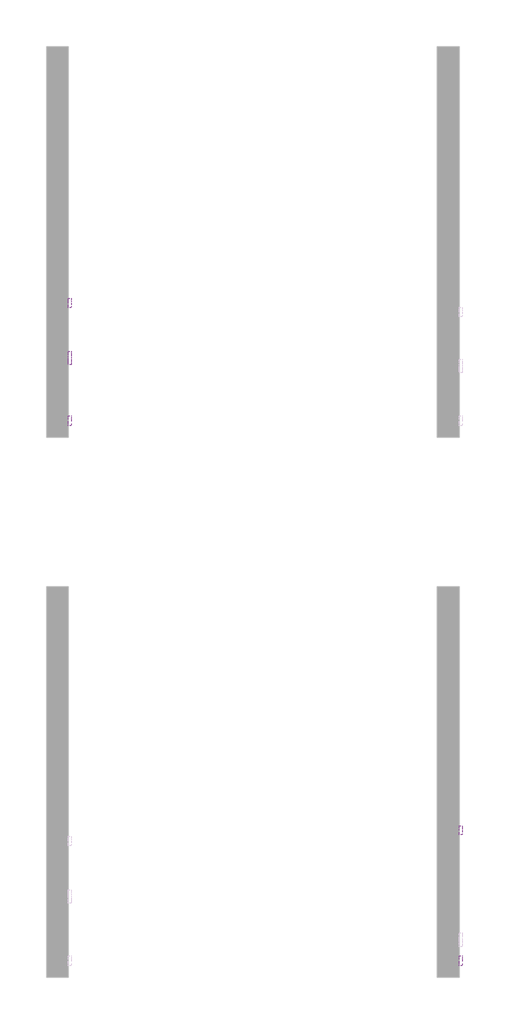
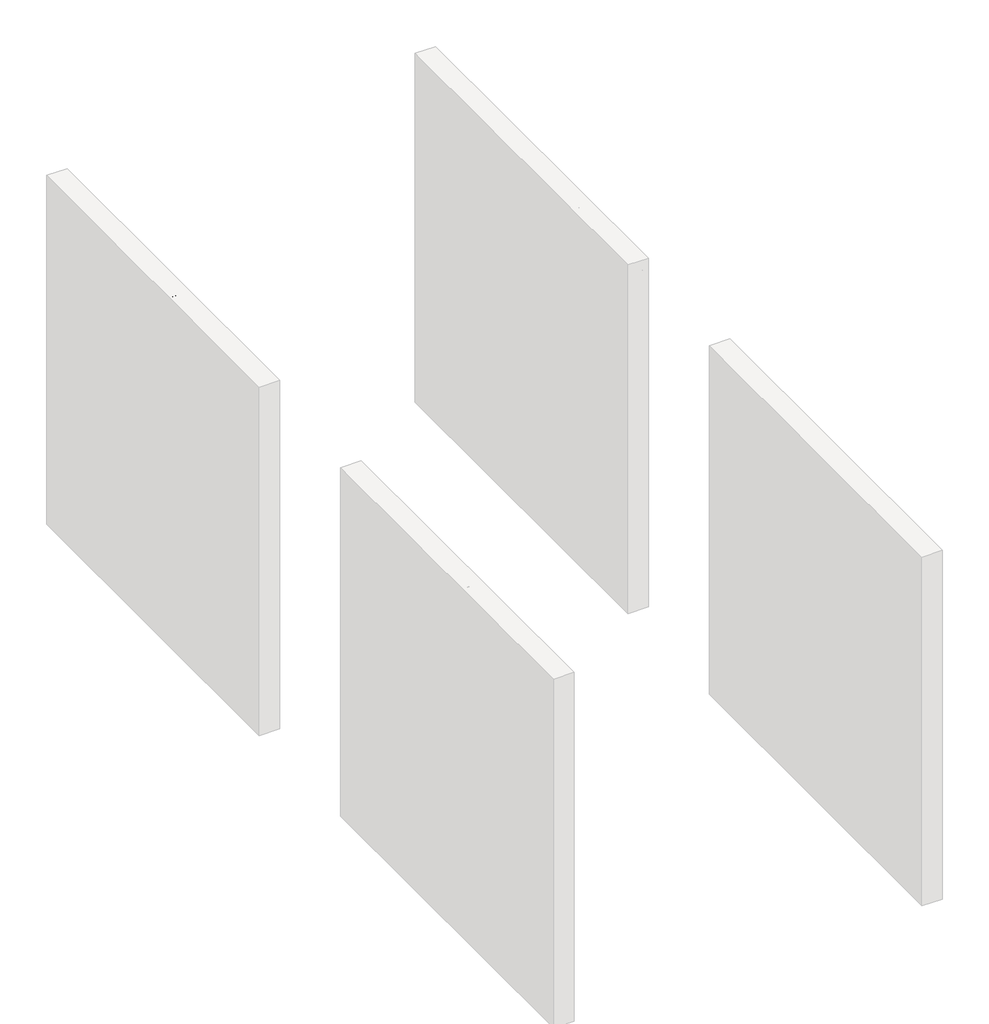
# One storey, part 3 of 17: 5 proxies.
"""IFC4 building model written with IfcOpenShell, lengths in millimetres."""

from ifc_helpers import new_model, si_unit, frame, origin, place, context, project, spatial, polyline, outline, extrude, element, save

model = new_model("IFC4")

# Units and contexts
model_context = context("Model", 3, world=origin())
ifc_project = project(units=[si_unit("LENGTHUNIT", "METRE", prefix="MILLI")], contexts=[model_context])

# Site, building, storey
site = spatial("IfcSite", under=ifc_project)
building = spatial("IfcBuilding", under=site)
storey = spatial("IfcBuildingStorey", under=building, Name="PORTOBELLO - SHOWROOM", Elevation=0.0)

# Proxies
placement = place(None, origin())
element("IfcBuildingElementProxy", 1, Name="10mm Arial", ObjectType="10mm Arial", at=placement, inside=storey, context=model_context, shape_type="SweptSolid", body=[
    extrude(outline(polyline([(-13002.2794626, -3900.8003989), (-13002.2794626, -3913.3574377), (-13022.2794626, -3913.3574377), (-13022.2794626, -3900.8003989), (-13002.2794626, -3900.8003989)])), frame((0.0, 0.0, 2518.4745677), z_axis=(0.0, 0.0, 1.0), x_axis=(1.0, 0.0, 0.0)), (0.0, 0.0, 1.0), 100.4563101),
    extrude(outline(polyline([(-3877.2559512, 2518.4745677), (-3877.2559512, 2592.2471704), (-3864.6989124, 2592.2471704), (-3864.6989124, 2581.9464746), (-3855.0971924, 2590.8492188), (-3841.9883306, 2593.8168003), (-3830.1302676, 2591.4255673), (-3822.0368637, 2585.1470479), (-3818.2722047, 2575.9132098), (-3817.6100171, 2563.773104), (-3817.6100171, 2518.4745677), (-3830.1670558, 2518.4745677), (-3830.1670558, 2562.0808468), (-3831.6140583, 2573.1908831), (-3836.7276181, 2579.0647323), (-3845.3483195, 2581.2597615), (-3858.972216, 2576.3301428), (-3863.2672383, 2569.1871007), (-3864.6989124, 2557.6172119), (-3864.6989124, 2518.4745677), (-3877.2559512, 2518.4745677)])), frame((-13022.2794626, 0.0, 0.0), z_axis=(1.0, 0.0, 0.0), x_axis=(0.0, 1.0, 0.0)), (0.0, 0.0, 1.0), 20.0),
    extrude(outline(polyline([(-3754.8248232, 2518.4745677), (-3754.8248232, 2530.3203679), (-3763.1328249, 2520.2587953), (-3774.6168746, 2516.9049378), (-3790.1660202, 2521.7609802), (-3801.1534291, 2535.3113003), (-3805.0529783, 2555.2872926), (-3801.4599975, 2575.2755477), (-3790.6933177, 2589.0343343), (-3774.6659255, 2593.8168003), (-3763.0899054, 2590.3954977), (-3754.8248232, 2581.5050162), (-3754.8248232, 2618.9308778), (-3742.2677844, 2618.9308778), (-3742.2677844, 2518.4745677), (-3754.8248232, 2518.4745677)]), holes=[polyline([(-3792.4959395, 2555.3363436), (-3791.0795938, 2543.977987), (-3786.8305568, 2535.8999115), (-3780.6562706, 2531.0714603), (-3773.4641776, 2529.4619766), (-3766.2751503, 2530.9978839), (-3760.257214, 2535.6056059), (-3756.1829209, 2543.3709817), (-3754.8248232, 2554.3798504), (-3756.2074464, 2566.415723), (-3760.3553159, 2574.7605129), (-3766.5265363, 2579.6349494), (-3773.9792124, 2581.2597615), (-3781.2448818, 2579.6993287), (-3787.1984388, 2575.0180303), (-3791.1715643, 2566.976743), (-3792.4959395, 2555.3363436)])]), frame((-13022.2794626, 0.0, 0.0), z_axis=(1.0, 0.0, 0.0), x_axis=(0.0, 1.0, 0.0)), (0.0, 0.0, 1.0), 20.0),
    extrude(outline(polyline([(-13002.2794626, -3710.8751875), (-13002.2794626, -3723.4322263), (-13022.2794626, -3723.4322263), (-13022.2794626, -3710.8751875), (-13002.2794626, -3710.8751875)])), frame((0.0, 0.0, 2606.373839), z_axis=(0.0, 0.0, 1.0), x_axis=(1.0, 0.0, 0.0)), (0.0, 0.0, 1.0), 12.5570388),
    extrude(outline(polyline([(-13002.2794626, -3710.8751875), (-13002.2794626, -3723.4322263), (-13022.2794626, -3723.4322263), (-13022.2794626, -3710.8751875), (-13002.2794626, -3710.8751875)])), frame((0.0, 0.0, 2518.4745677), z_axis=(0.0, 0.0, 1.0), x_axis=(1.0, 0.0, 0.0)), (0.0, 0.0, 1.0), 73.7726028),
    extrude(outline(polyline([(-3695.1788891, 2512.1960483), (-3682.6218503, 2510.6264184), (-3678.5506229, 2504.0045425), (-3666.3614661, 2501.2086394), (-3653.5101217, 2504.3724245), (-3647.3787552, 2513.2506433), (-3646.5203638, 2527.8923467), (-3655.3617945, 2520.8290124), (-3666.1407369, 2518.4745677), (-3679.0871175, 2521.2152885), (-3688.7409541, 2529.4374511), (-3694.7466277, 2541.4917178), (-3696.7485189, 2555.728751), (-3693.1555381, 2575.1897086), (-3682.7567404, 2588.9607579), (-3666.7538736, 2593.8168003), (-3655.5518668, 2591.069948), (-3646.5203638, 2582.8293914), (-3646.5203638, 2592.2471704), (-3633.9633251, 2592.2471704), (-3633.9633251, 2528.5545343), (-3637.3968904, 2504.1639581), (-3648.2739347, 2492.8209299), (-3666.6067208, 2488.6516006), (-3678.2900398, 2490.1200629), (-3687.4901554, 2494.5254498), (-3693.3915957, 2501.880024), (-3695.1788891, 2512.1960483)]), holes=[polyline([(-3684.1914801, 2556.5871424), (-3682.8517765, 2545.0693702), (-3678.8326657, 2537.1507103), (-3672.790204, 2532.5613824), (-3665.3804475, 2531.0316064), (-3658.0258732, 2532.5521853), (-3651.9527546, 2537.1139221), (-3647.8784615, 2544.9314145), (-3646.5203638, 2556.2192604), (-3647.9183154, 2567.1055017), (-3652.1121702, 2574.9444539), (-3658.2741936, 2579.6809346), (-3665.5766512, 2581.2597615), (-3672.7472844, 2579.7054601), (-3678.7590893, 2575.0425558), (-3682.8333824, 2567.3200996), (-3684.1914801, 2556.5871424)])]), frame((-13022.2794626, 0.0, 0.0), z_axis=(1.0, 0.0, 0.0), x_axis=(0.0, 1.0, 0.0)), (0.0, 0.0, 1.0), 20.0),
    extrude(outline(polyline([(-3618.2670266, 2555.360869), (-3615.5508312, 2573.1479635), (-3607.402245, 2585.64982), (-3597.3345411, 2591.7750552), (-3585.2802744, 2593.8168003), (-3572.0886392, 2591.3305311), (-3561.5518857, 2583.8717237), (-3554.6449012, 2572.0289891), (-3552.3425731, 2556.3909386), (-3556.4138005, 2534.0482388), (-3568.2718635, 2521.4053609), (-3585.2802744, 2516.9049378), (-3598.6313251, 2519.3820099), (-3609.1558159, 2526.8132262), (-3615.9892239, 2538.9042811), (-3618.2670266, 2555.360869)]), holes=[polyline([(-3605.7099878, 2555.3853945), (-3604.256854, 2544.0209065), (-3599.8974523, 2535.924437), (-3593.3368901, 2531.0775917), (-3585.2802744, 2529.4619766), (-3577.2604469, 2531.0867887), (-3570.7121474, 2535.9612252), (-3566.3527457, 2544.1649937), (-3564.8996118, 2555.777802), (-3566.3619428, 2566.8111961), (-3570.7489356, 2574.7973011), (-3577.3064321, 2579.6441464), (-3585.2802744, 2581.2597615), (-3593.3368901, 2579.6502778), (-3599.8974523, 2574.8218266), (-3604.256854, 2566.7437511), (-3605.7099878, 2555.3853945)])]), frame((-13022.2794626, 0.0, 0.0), z_axis=(1.0, 0.0, 0.0), x_axis=(0.0, 1.0, 0.0)), (0.0, 0.0, 1.0), 20.0),
    extrude(outline(polyline([(-3450.3166331, 2557.7153138), (-3450.3166331, 2570.2723526), (-3409.5062571, 2570.2723526), (-3409.5062571, 2532.7238636), (-3429.6539277, 2520.8780634), (-3450.9542952, 2516.9049378), (-3465.0411099, 2518.4837647), (-3477.7728926, 2523.2202454), (-3488.3495, 2530.948833), (-3495.9707887, 2541.5039806), (-3500.5785107, 2554.1652526), (-3502.114418, 2568.2122134), (-3500.584642, 2582.3603418), (-3495.9953141, 2595.5213202), (-3488.5365067, 2606.5608457), (-3478.398292, 2614.3446156), (-3466.0497197, 2618.9615346), (-3451.9598393, 2620.5005077), (-3432.3149408, 2616.9320523), (-3418.5438914, 2606.9992384), (-3410.9532596, 2590.383235), (-3422.5292797, 2587.121348), (-3428.2559761, 2598.7341563), (-3438.0416372, 2605.4296086), (-3452.1560431, 2607.9434689), (-3468.2324862, 2605.2334049), (-3479.1708442, 2598.1210196), (-3485.6333046, 2588.4457231), (-3489.5573792, 2568.7272482), (-3484.836227, 2546.8382695), (-3471.1019658, 2533.7416705), (-3451.9598393, 2529.4619766), (-3434.7797501, 2532.6870754), (-3422.0632958, 2539.5664687), (-3422.0632958, 2557.7153138), (-3450.3166331, 2557.7153138)])), frame((-13022.2794626, 0.0, 0.0), z_axis=(1.0, 0.0, 0.0), x_axis=(0.0, 1.0, 0.0)), (0.0, 0.0, 1.0), 20.0),
    extrude(outline(polyline([(-3390.6706989, 2518.4745677), (-3390.6706989, 2592.2471704), (-3379.68329, 2592.2471704), (-3379.68329, 2581.3333379), (-3371.8841917, 2591.3887791), (-3364.0360425, 2593.8168003), (-3351.4299528, 2589.9417766), (-3355.6238075, 2578.6845875), (-3364.4529754, 2581.2597615), (-3371.5530979, 2578.7826894), (-3376.0780464, 2571.9155588), (-3378.1136602, 2557.24933), (-3378.1136602, 2518.4745677), (-3390.6706989, 2518.4745677)])), frame((-13022.2794626, 0.0, 0.0), z_axis=(1.0, 0.0, 0.0), x_axis=(0.0, 1.0, 0.0)), (0.0, 0.0, 1.0), 20.0),
    extrude(outline(polyline([(-3296.4929082, 2527.8923467), (-3308.6698022, 2519.3820099), (-3322.1220205, 2516.9049378), (-3332.6158544, 2518.3948599), (-3340.3567047, 2522.8646261), (-3345.1299736, 2529.6520489), (-3346.7210632, 2538.0949407), (-3344.3175675, 2548.0277546), (-3338.0022599, 2555.2382417), (-3329.2098803, 2559.3585201), (-3318.3450987, 2561.246981), (-3296.5664846, 2565.563463), (-3296.4929082, 2568.3593662), (-3299.9509989, 2577.6299925), (-3313.8324129, 2581.2597615), (-3326.5366044, 2578.8440031), (-3332.5943946, 2570.2723526), (-3345.1514334, 2571.8419824), (-3339.7190426, 2584.1047156), (-3328.7806846, 2591.2906772), (-3312.2137321, 2593.8168003), (-3296.9956802, 2591.5849828), (-3288.3995043, 2585.9809138), (-3284.549006, 2577.4583142), (-3283.9358694, 2566.4709053), (-3283.9358694, 2550.8481832), (-3283.2982073, 2529.0327809), (-3280.7966097, 2518.4745677), (-3293.3536485, 2518.4745677), (-3296.4929082, 2527.8923467)]), holes=[polyline([(-3296.4929082, 2553.0064243), (-3316.7509434, 2549.1559261), (-3327.5544113, 2547.1203124), (-3332.4472418, 2543.8093744), (-3334.1640245, 2538.9778575), (-3330.4238908, 2532.1843033), (-3319.4487447, 2529.4619766), (-3306.7445531, 2532.4663462), (-3298.5530473, 2539.738147), (-3296.5664846, 2549.4502317), (-3296.4929082, 2553.0064243)])]), frame((-13022.2794626, 0.0, 0.0), z_axis=(1.0, 0.0, 0.0), x_axis=(0.0, 1.0, 0.0)), (0.0, 0.0, 1.0), 20.0),
    extrude(outline(polyline([(-3263.5306814, 2518.4745677), (-3263.5306814, 2579.6901317), (-3274.5180903, 2579.6901317), (-3274.5180903, 2592.2471704), (-3263.5306814, 2592.2471704), (-3263.5306814, 2599.6783867), (-3262.2063062, 2610.1507609), (-3255.780634, 2617.6310281), (-3243.1254934, 2620.5005077), (-3231.6721006, 2619.1270815), (-3233.5115106, 2607.3548577), (-3240.7465232, 2607.9434689), (-3248.6559861, 2605.8588043), (-3250.9736426, 2598.0842314), (-3250.9736426, 2592.2471704), (-3236.846974, 2592.2471704), (-3236.846974, 2579.6901317), (-3250.9736426, 2579.6901317), (-3250.9736426, 2518.4745677), (-3263.5306814, 2518.4745677)])), frame((-13022.2794626, 0.0, 0.0), z_axis=(1.0, 0.0, 0.0), x_axis=(0.0, 1.0, 0.0)), (0.0, 0.0, 1.0), 20.0),
    extrude(outline(polyline([(-3222.7203054, 2518.4745677), (-3222.7203054, 2579.6901317), (-3233.7077143, 2579.6901317), (-3233.7077143, 2592.2471704), (-3222.7203054, 2592.2471704), (-3222.7203054, 2599.6783867), (-3221.3959302, 2610.1507609), (-3214.970258, 2617.6310281), (-3202.3151174, 2620.5005077), (-3190.8617246, 2619.1270815), (-3192.7011346, 2607.3548577), (-3199.9361472, 2607.9434689), (-3207.8456101, 2605.8588043), (-3210.1632666, 2598.0842314), (-3210.1632666, 2592.2471704), (-3196.036598, 2592.2471704), (-3196.036598, 2579.6901317), (-3210.1632666, 2579.6901317), (-3210.1632666, 2518.4745677), (-3222.7203054, 2518.4745677)])), frame((-13022.2794626, 0.0, 0.0), z_axis=(1.0, 0.0, 0.0), x_axis=(0.0, 1.0, 0.0)), (0.0, 0.0, 1.0), 20.0),
    extrude(outline(polyline([(-13002.2794626, -3172.4921503), (-13002.2794626, -3185.0491891), (-13022.2794626, -3185.0491891), (-13022.2794626, -3172.4921503), (-13002.2794626, -3172.4921503)])), frame((0.0, 0.0, 2606.373839), z_axis=(0.0, 0.0, 1.0), x_axis=(1.0, 0.0, 0.0)), (0.0, 0.0, 1.0), 12.5570388),
    extrude(outline(polyline([(-13002.2794626, -3172.4921503), (-13002.2794626, -3185.0491891), (-13022.2794626, -3185.0491891), (-13022.2794626, -3172.4921503), (-13002.2794626, -3172.4921503)])), frame((0.0, 0.0, 2518.4745677), z_axis=(0.0, 0.0, 1.0), x_axis=(1.0, 0.0, 0.0)), (0.0, 0.0, 1.0), 73.7726028),
])
element("IfcBuildingElementProxy", 2, Name="10mm Arial", ObjectType="10mm Arial", at=placement, inside=storey, context=model_context, shape_type="SweptSolid", body=[
    extrude(outline(polyline([(-7608.8255811, 2393.4745677), (-7608.8255811, 2417.0190154), (-7654.3448466, 2417.0190154), (-7654.3448466, 2429.5760541), (-7605.6863214, 2492.361248), (-7596.2685423, 2492.361248), (-7596.2685423, 2429.5760541), (-7583.7115035, 2429.5760541), (-7583.7115035, 2417.0190154), (-7596.2685423, 2417.0190154), (-7596.2685423, 2393.4745677), (-7608.8255811, 2393.4745677)]), holes=[polyline([(-7608.8255811, 2429.5760541), (-7608.8255811, 2468.3753419), (-7638.8938028, 2429.5760541), (-7608.8255811, 2429.5760541)])]), frame((-10322.2794626, 0.0, 0.0), z_axis=(1.0, 0.0, 0.0), x_axis=(0.0, 1.0, 0.0)), (0.0, 0.0, 1.0), 20.0),
    extrude(outline(polyline([(-7572.7240946, 2420.158275), (-7560.1670558, 2421.7279049), (-7553.8394855, 2408.7907214), (-7540.718361, 2404.4619766), (-7531.7175149, 2405.9672271), (-7524.9730116, 2410.4829786), (-7520.7607628, 2417.4880649), (-7519.3566798, 2426.4613199), (-7524.6173924, 2441.3728034), (-7531.2239399, 2445.4746877), (-7540.5221573, 2446.8419824), (-7551.5463544, 2444.6592159), (-7558.597426, 2438.9938332), (-7571.1544648, 2440.563463), (-7560.1670558, 2492.361248), (-7511.5085306, 2492.361248), (-7511.5085306, 2479.8042092), (-7550.0135128, 2479.8042092), (-7555.4091154, 2452.1394832), (-7546.438926, 2457.5841367), (-7537.0395411, 2459.3990212), (-7525.3041054, 2457.1488097), (-7515.5552325, 2450.3981751), (-7508.9885389, 2440.1097419), (-7506.7996411, 2427.2461348), (-7508.7678097, 2414.6890961), (-7514.6723158, 2403.9469418), (-7525.9785557, 2394.9154388), (-7540.7674119, 2391.9049378), (-7553.1006558, 2393.839384), (-7562.9261708, 2399.6427224), (-7569.661477, 2408.6405029), (-7572.7240946, 2420.158275)])), frame((-10322.2794626, 0.0, 0.0), z_axis=(1.0, 0.0, 0.0), x_axis=(0.0, 1.0, 0.0)), (0.0, 0.0, 1.0), 20.0),
    extrude(outline(polyline([(-7500.5211217, 2393.4745677), (-7473.6902615, 2430.5815982), (-7498.9514918, 2467.2471704), (-7483.8928555, 2467.2471704), (-7471.7036987, 2449.5643092), (-7465.9892651, 2441.2501761), (-7461.0351209, 2448.0682557), (-7447.1537069, 2467.2471704), (-7432.0460196, 2467.2471704), (-7458.5825742, 2430.5570728), (-7433.0270383, 2393.4745677), (-7448.1102001, 2393.4745677), (-7463.512193, 2415.792742), (-7466.3080961, 2419.8884949), (-7485.4134344, 2393.4745677), (-7500.5211217, 2393.4745677)])), frame((-10322.2794626, 0.0, 0.0), z_axis=(1.0, 0.0, 0.0), x_axis=(0.0, 1.0, 0.0)), (0.0, 0.0, 1.0), 20.0),
    extrude(outline(polyline([(-7378.0899937, 2393.4745677), (-7390.6470325, 2393.4745677), (-7390.6470325, 2471.7598562), (-7402.5418836, 2463.2863076), (-7415.76111, 2456.9464746), (-7415.76111, 2468.8168003), (-7397.3547475, 2480.5644987), (-7386.1833976, 2493.9308778), (-7378.0899937, 2493.9308778), (-7378.0899937, 2393.4745677)])), frame((-10322.2794626, 0.0, 0.0), z_axis=(1.0, 0.0, 0.0), x_axis=(0.0, 1.0, 0.0)), (0.0, 0.0, 1.0), 20.0),
    extrude(outline(polyline([(-7283.9122029, 2406.0316064), (-7283.9122029, 2393.4745677), (-7349.8366565, 2393.4745677), (-7348.4877558, 2402.1320573), (-7340.848073, 2415.4616482), (-7325.1149864, 2430.0175125), (-7303.4467369, 2450.9377353), (-7298.0388715, 2465.1625058), (-7303.1524313, 2476.6772122), (-7316.5065477, 2481.373839), (-7330.4247498, 2476.7875768), (-7335.7099878, 2464.1079107), (-7348.2670266, 2465.6775406), (-7345.2228031, 2477.8237778), (-7338.6407811, 2486.6958652), (-7328.864317, 2492.1221247), (-7316.2367676, 2493.9308778), (-7303.5172476, 2491.9197896), (-7293.7591777, 2485.8865249), (-7287.551169, 2476.873416), (-7285.4818328, 2465.9227952), (-7287.7136502, 2454.0156813), (-7295.1326038, 2441.7038972), (-7313.1220333, 2424.4992826), (-7327.567533, 2412.4204904), (-7333.2329157, 2406.0316064), (-7283.9122029, 2406.0316064)])), frame((-10322.2794626, 0.0, 0.0), z_axis=(1.0, 0.0, 0.0), x_axis=(0.0, 1.0, 0.0)), (0.0, 0.0, 1.0), 20.0),
    extrude(outline(polyline([(-7271.3551641, 2442.8933823), (-7267.6640815, 2471.7966444), (-7256.701198, 2488.4616988), (-7238.3929374, 2493.9308778), (-7223.7267085, 2490.6935163), (-7213.5976909, 2481.3615763), (-7207.711579, 2466.4991437), (-7205.4307106, 2442.8933823), (-7209.0850051, 2414.1127476), (-7220.0111004, 2397.410905), (-7228.24246, 2393.2814296), (-7238.3929374, 2391.9049378), (-7251.4404855, 2394.2961708), (-7261.3487739, 2401.4698697), (-7268.8535666, 2418.4598865), (-7271.3551641, 2442.8933823)]), holes=[polyline([(-7258.7981254, 2442.9179078), (-7257.3265974, 2423.1657104), (-7252.9120135, 2411.7337774), (-7246.3391885, 2406.2799268), (-7238.3929374, 2404.4619766), (-7230.4466863, 2406.2860581), (-7223.8738613, 2411.7583028), (-7219.4592774, 2423.1963672), (-7217.9877494, 2442.9179078), (-7219.4102264, 2462.2255812), (-7223.6776576, 2473.746419), (-7230.2382198, 2479.466984), (-7238.5400902, 2481.373839), (-7246.4005021, 2479.6938446), (-7252.7158097, 2474.6538613), (-7257.2775465, 2462.4156536), (-7258.7981254, 2442.9179078)])]), frame((-10322.2794626, 0.0, 0.0), z_axis=(1.0, 0.0, 0.0), x_axis=(0.0, 1.0, 0.0)), (0.0, 0.0, 1.0), 20.0),
])
element("IfcBuildingElementProxy", 3, Name="10mm Arial", ObjectType="10mm Arial", at=placement, inside=storey, context=model_context, shape_type="SweptSolid", body=[
    extrude(outline(polyline([(-3878.8255811, 2393.4745677), (-3878.8255811, 2417.0190154), (-3924.3448466, 2417.0190154), (-3924.3448466, 2429.5760541), (-3875.6863214, 2492.361248), (-3866.2685423, 2492.361248), (-3866.2685423, 2429.5760541), (-3853.7115035, 2429.5760541), (-3853.7115035, 2417.0190154), (-3866.2685423, 2417.0190154), (-3866.2685423, 2393.4745677), (-3878.8255811, 2393.4745677)]), holes=[polyline([(-3878.8255811, 2429.5760541), (-3878.8255811, 2468.3753419), (-3908.8938028, 2429.5760541), (-3878.8255811, 2429.5760541)])]), frame((-13022.2794626, 0.0, 0.0), z_axis=(1.0, 0.0, 0.0), x_axis=(0.0, 1.0, 0.0)), (0.0, 0.0, 1.0), 20.0),
    extrude(outline(polyline([(-3842.7240946, 2420.158275), (-3830.1670558, 2421.7279049), (-3823.8394855, 2408.7907214), (-3810.718361, 2404.4619766), (-3801.7175149, 2405.9672271), (-3794.9730116, 2410.4829786), (-3790.7607628, 2417.4880649), (-3789.3566798, 2426.4613199), (-3794.6173924, 2441.3728034), (-3801.2239399, 2445.4746877), (-3810.5221573, 2446.8419824), (-3821.5463544, 2444.6592159), (-3828.597426, 2438.9938332), (-3841.1544648, 2440.563463), (-3830.1670558, 2492.361248), (-3781.5085306, 2492.361248), (-3781.5085306, 2479.8042092), (-3820.0135128, 2479.8042092), (-3825.4091154, 2452.1394832), (-3816.438926, 2457.5841367), (-3807.0395411, 2459.3990212), (-3795.3041054, 2457.1488097), (-3785.5552325, 2450.3981751), (-3778.9885389, 2440.1097419), (-3776.7996411, 2427.2461348), (-3778.7678097, 2414.6890961), (-3784.6723158, 2403.9469418), (-3795.9785557, 2394.9154388), (-3810.7674119, 2391.9049378), (-3823.1006558, 2393.839384), (-3832.9261708, 2399.6427224), (-3839.661477, 2408.6405029), (-3842.7240946, 2420.158275)])), frame((-13022.2794626, 0.0, 0.0), z_axis=(1.0, 0.0, 0.0), x_axis=(0.0, 1.0, 0.0)), (0.0, 0.0, 1.0), 20.0),
    extrude(outline(polyline([(-3770.5211217, 2393.4745677), (-3743.6902615, 2430.5815982), (-3768.9514918, 2467.2471704), (-3753.8928555, 2467.2471704), (-3741.7036987, 2449.5643092), (-3735.9892651, 2441.2501761), (-3731.0351209, 2448.0682557), (-3717.1537069, 2467.2471704), (-3702.0460196, 2467.2471704), (-3728.5825742, 2430.5570728), (-3703.0270383, 2393.4745677), (-3718.1102001, 2393.4745677), (-3733.512193, 2415.792742), (-3736.3080961, 2419.8884949), (-3755.4134344, 2393.4745677), (-3770.5211217, 2393.4745677)])), frame((-13022.2794626, 0.0, 0.0), z_axis=(1.0, 0.0, 0.0), x_axis=(0.0, 1.0, 0.0)), (0.0, 0.0, 1.0), 20.0),
    extrude(outline(polyline([(-3648.0899937, 2393.4745677), (-3660.6470325, 2393.4745677), (-3660.6470325, 2471.7598562), (-3672.5418836, 2463.2863076), (-3685.76111, 2456.9464746), (-3685.76111, 2468.8168003), (-3667.3547475, 2480.5644987), (-3656.1833976, 2493.9308778), (-3648.0899937, 2493.9308778), (-3648.0899937, 2393.4745677)])), frame((-13022.2794626, 0.0, 0.0), z_axis=(1.0, 0.0, 0.0), x_axis=(0.0, 1.0, 0.0)), (0.0, 0.0, 1.0), 20.0),
    extrude(outline(polyline([(-3553.9122029, 2406.0316064), (-3553.9122029, 2393.4745677), (-3619.8366565, 2393.4745677), (-3618.4877558, 2402.1320573), (-3610.848073, 2415.4616482), (-3595.1149864, 2430.0175125), (-3573.4467369, 2450.9377353), (-3568.0388715, 2465.1625058), (-3573.1524313, 2476.6772122), (-3586.5065477, 2481.373839), (-3600.4247498, 2476.7875768), (-3605.7099878, 2464.1079107), (-3618.2670266, 2465.6775406), (-3615.2228031, 2477.8237778), (-3608.6407811, 2486.6958652), (-3598.864317, 2492.1221247), (-3586.2367676, 2493.9308778), (-3573.5172476, 2491.9197896), (-3563.7591777, 2485.8865249), (-3557.551169, 2476.873416), (-3555.4818328, 2465.9227952), (-3557.7136502, 2454.0156813), (-3565.1326038, 2441.7038972), (-3583.1220333, 2424.4992826), (-3597.567533, 2412.4204904), (-3603.2329157, 2406.0316064), (-3553.9122029, 2406.0316064)])), frame((-13022.2794626, 0.0, 0.0), z_axis=(1.0, 0.0, 0.0), x_axis=(0.0, 1.0, 0.0)), (0.0, 0.0, 1.0), 20.0),
    extrude(outline(polyline([(-3541.3551641, 2442.8933823), (-3537.6640815, 2471.7966444), (-3526.701198, 2488.4616988), (-3508.3929374, 2493.9308778), (-3493.7267085, 2490.6935163), (-3483.5976909, 2481.3615763), (-3477.711579, 2466.4991437), (-3475.4307106, 2442.8933823), (-3479.0850051, 2414.1127476), (-3490.0111004, 2397.410905), (-3498.24246, 2393.2814296), (-3508.3929374, 2391.9049378), (-3521.4404855, 2394.2961708), (-3531.3487739, 2401.4698697), (-3538.8535666, 2418.4598865), (-3541.3551641, 2442.8933823)]), holes=[polyline([(-3528.7981254, 2442.9179078), (-3527.3265974, 2423.1657104), (-3522.9120135, 2411.7337774), (-3516.3391885, 2406.2799268), (-3508.3929374, 2404.4619766), (-3500.4466863, 2406.2860581), (-3493.8738613, 2411.7583028), (-3489.4592774, 2423.1963672), (-3487.9877494, 2442.9179078), (-3489.4102264, 2462.2255812), (-3493.6776576, 2473.746419), (-3500.2382198, 2479.466984), (-3508.5400902, 2481.373839), (-3516.4005021, 2479.6938446), (-3522.7158097, 2474.6538613), (-3527.2775465, 2462.4156536), (-3528.7981254, 2442.9179078)])]), frame((-13022.2794626, 0.0, 0.0), z_axis=(1.0, 0.0, 0.0), x_axis=(0.0, 1.0, 0.0)), (0.0, 0.0, 1.0), 20.0),
])
element("IfcBuildingElementProxy", 4, Name="10mm Arial Narrow", ObjectType="10mm Arial Narrow", at=placement, inside=storey, context=model_context, shape_type="SweptSolid", body=[
    extrude(outline(polyline([(-6750.7471538, 2518.4745677), (-6750.7471538, 2619.1931714), (-6719.4502692, 2619.1931714), (-6703.1545677, 2617.3148507), (-6691.6815815, 2607.8344075), (-6687.3919031, 2590.8152987), (-6689.1782115, 2578.7394731), (-6694.5371367, 2569.1130794), (-6704.2809255, 2562.811821), (-6719.2218248, 2560.7114015), (-6741.0001922, 2560.7114015), (-6741.0001922, 2518.4745677), (-6750.7471538, 2518.4745677)]), holes=[polyline([(-6741.0001922, 2572.0828568), (-6718.0288373, 2572.0828568), (-6702.1646419, 2576.613671), (-6697.1388648, 2590.2822617), (-6699.6136792, 2600.4480381), (-6705.5913081, 2606.247988), (-6718.2572817, 2607.8217162), (-6741.0001922, 2607.8217162), (-6741.0001922, 2572.0828568)])]), frame((-10322.2794626, 0.0, 0.0), z_axis=(1.0, 0.0, 0.0), x_axis=(0.0, 1.0, 0.0)), (0.0, 0.0, 1.0), 20.0),
    extrude(outline(polyline([(-6679.2694351, 2555.0256739), (-6677.3149662, 2571.6164494), (-6671.4515596, 2583.5685342), (-6662.5929929, 2590.7930888), (-6651.6530437, 2593.2012737), (-6640.8400081, 2590.7930888), (-6631.9560587, 2583.5685342), (-6626.0165039, 2571.8068198), (-6624.0366524, 2555.7871552), (-6625.9816027, 2538.6252687), (-6631.8164538, 2526.4828135), (-6640.665502, 2519.2582589), (-6651.6530437, 2516.8500741), (-6662.5136719, 2519.2646046), (-6671.3881028, 2526.5081962), (-6677.299102, 2538.4666267), (-6679.2694351, 2555.0256739)]), holes=[polyline([(-6669.5224734, 2555.0510566), (-6668.2184365, 2542.4993052), (-6664.306326, 2533.6280471), (-6658.4651292, 2528.3547886), (-6651.3738339, 2526.5970357), (-6644.6537607, 2528.3706528), (-6638.9616874, 2533.6915039), (-6635.0781324, 2542.5786262), (-6633.783614, 2555.0510566), (-6635.0876509, 2567.5647339), (-6638.9997615, 2576.4233006), (-6644.8409582, 2581.6965592), (-6651.9322535, 2583.454312), (-6658.6999193, 2581.6870407), (-6664.3824741, 2576.3852265), (-6668.2374736, 2567.5171413), (-6669.5224734, 2555.0510566)])]), frame((-10322.2794626, 0.0, 0.0), z_axis=(1.0, 0.0, 0.0), x_axis=(0.0, 1.0, 0.0)), (0.0, 0.0, 1.0), 20.0),
    extrude(outline(polyline([(-6552.5589336, 2526.5970357), (-6550.93444, 2516.8500741), (-6558.2954266, 2516.8500741), (-6566.5701909, 2518.9695306), (-6570.8852521, 2524.7694804), (-6572.0528569, 2539.4153056), (-6572.0528569, 2581.8298184), (-6580.1753249, 2581.8298184), (-6580.1753249, 2585.0788056), (-6581.7998185, 2580.2053248), (-6589.3638669, 2581.8298184), (-6595.4430266, 2579.5073002), (-6599.3138902, 2573.0220171), (-6601.2937418, 2557.6147106), (-6601.2937418, 2518.4745677), (-6611.0407035, 2518.4745677), (-6611.0407035, 2591.5767801), (-6601.2937418, 2591.5767801), (-6601.2937418, 2581.8805838), (-6595.0495945, 2590.967595), (-6588.6531509, 2593.2012737), (-6580.1753249, 2591.5767801), (-6572.0528569, 2591.5767801), (-6572.0528569, 2607.8217162), (-6562.3058952, 2615.9441842), (-6562.3058952, 2591.5767801), (-6552.5589336, 2591.5767801), (-6552.5589336, 2581.8298184), (-6562.3058952, 2581.8298184), (-6562.3058952, 2537.1816269), (-6561.442883, 2529.1860724), (-6556.8232293, 2526.5970357), (-6552.5589336, 2526.5970357)])), frame((-10322.2794626, 0.0, 0.0), z_axis=(1.0, 0.0, 0.0), x_axis=(0.0, 1.0, 0.0)), (0.0, 0.0, 1.0), 20.0),
    extrude(outline(polyline([(-6546.0609591, 2555.0256739), (-6544.1064903, 2571.6164494), (-6538.2430836, 2583.5685342), (-6529.3845169, 2590.7930888), (-6518.4445678, 2593.2012737), (-6507.6315322, 2590.7930888), (-6498.7475828, 2583.5685342), (-6492.808028, 2571.8068198), (-6490.8281764, 2555.7871552), (-6492.7731268, 2538.6252687), (-6498.6079778, 2526.4828135), (-6507.457026, 2519.2582589), (-6518.4445678, 2516.8500741), (-6529.3051959, 2519.2646046), (-6538.1796269, 2526.5081962), (-6544.0906261, 2538.4666267), (-6546.0609591, 2555.0256739)]), holes=[polyline([(-6536.3139975, 2555.0510566), (-6535.0099606, 2542.4993052), (-6531.09785, 2533.6280471), (-6525.2566533, 2528.3547886), (-6518.1653579, 2526.5970357), (-6511.4452848, 2528.3706528), (-6505.7532115, 2533.6915039), (-6501.8696564, 2542.5786262), (-6500.5751381, 2555.0510566), (-6501.8791749, 2567.5647339), (-6505.7912855, 2576.4233006), (-6511.6324823, 2581.6965592), (-6518.7237776, 2583.454312), (-6525.4914434, 2581.6870407), (-6531.1739982, 2576.3852265), (-6535.0289976, 2567.5171413), (-6536.3139975, 2555.0510566)])]), frame((-10322.2794626, 0.0, 0.0), z_axis=(1.0, 0.0, 0.0), x_axis=(0.0, 1.0, 0.0)), (0.0, 0.0, 1.0), 20.0),
    extrude(outline(polyline([(-6468.0852659, 2518.4745677), (-6477.8322276, 2518.4745677), (-6477.8322276, 2619.1931714), (-6468.0852659, 2619.1931714), (-6468.0852659, 2583.7842873), (-6460.6862052, 2590.8660641), (-6451.4849718, 2593.2012737), (-6438.6032452, 2589.0004347), (-6429.3258637, 2576.2710043), (-6425.8484321, 2555.5840935), (-6427.7806911, 2539.1297501), (-6433.5774681, 2526.927011), (-6441.9505904, 2519.3693083), (-6451.6118854, 2516.8500741), (-6460.9527236, 2519.4644935), (-6468.0852659, 2527.2316035), (-6468.0852659, 2518.4745677)]), holes=[polyline([(-6468.0852659, 2555.5840935), (-6466.0038835, 2538.3365403), (-6460.1150941, 2529.6048872), (-6451.6626508, 2526.5970357), (-6445.7199232, 2528.3865169), (-6440.4815659, 2533.7549607), (-6435.5953937, 2555.1779701), (-6440.3038869, 2576.613671), (-6445.5485899, 2581.7441518), (-6451.8657125, 2583.454312), (-6457.8433413, 2581.6648308), (-6463.1356369, 2576.2963871), (-6468.0852659, 2555.5840935)])]), frame((-10322.2794626, 0.0, 0.0), z_axis=(1.0, 0.0, 0.0), x_axis=(0.0, 1.0, 0.0)), (0.0, 0.0, 1.0), 20.0),
    extrude(outline(polyline([(-6373.8646366, 2541.2174782), (-6364.1176749, 2539.5929846), (-6367.8172053, 2529.706418), (-6373.6361922, 2522.5865671), (-6381.3398455, 2518.2841973), (-6390.6933751, 2516.8500741), (-6402.2869291, 2519.2646046), (-6411.4310513, 2526.5081962), (-6417.370606, 2538.3143304), (-6419.3504576, 2554.4164888), (-6417.3610875, 2571.0834124), (-6411.3929772, 2583.2639417), (-6402.3789414, 2590.7169407), (-6391.2517947, 2593.2012737), (-6380.5688456, 2590.8026073), (-6371.8213282, 2583.6066083), (-6365.9864771, 2571.8671037), (-6364.0415268, 2555.8379207), (-6364.1176749, 2552.5889335), (-6409.603496, 2552.5889335), (-6403.6004844, 2533.1457756), (-6397.6704482, 2528.2342207), (-6390.5664615, 2526.5970357), (-6380.3879937, 2530.2521463), (-6373.8646366, 2541.2174782)]), holes=[polyline([(-6408.9435454, 2562.3358951), (-6373.8646366, 2562.3358951), (-6378.1289323, 2576.6009796), (-6383.9542649, 2581.7409789), (-6391.1756466, 2583.454312), (-6403.3847314, 2577.7432017), (-6408.9435454, 2562.3358951)])]), frame((-10322.2794626, 0.0, 0.0), z_axis=(1.0, 0.0, 0.0), x_axis=(0.0, 1.0, 0.0)), (0.0, 0.0, 1.0), 20.0),
    extrude(outline(polyline([(-10302.2794626, -6341.3747644), (-10302.2794626, -6351.1217261), (-10322.2794626, -6351.1217261), (-10322.2794626, -6341.3747644), (-10302.2794626, -6341.3747644)])), frame((0.0, 0.0, 2518.4745677), z_axis=(0.0, 0.0, 1.0), x_axis=(1.0, 0.0, 0.0)), (0.0, 0.0, 1.0), 100.7186038),
    extrude(outline(polyline([(-10302.2794626, -6315.3828667), (-10302.2794626, -6325.1298283), (-10322.2794626, -6325.1298283), (-10322.2794626, -6315.3828667), (-10302.2794626, -6315.3828667)])), frame((0.0, 0.0, 2518.4745677), z_axis=(0.0, 0.0, 1.0), x_axis=(1.0, 0.0, 0.0)), (0.0, 0.0, 1.0), 100.7186038),
    extrude(outline(polyline([(-6304.0114114, 2555.0256739), (-6302.0569425, 2571.6164494), (-6296.1935359, 2583.5685342), (-6287.3349692, 2590.7930888), (-6276.39502, 2593.2012737), (-6265.5819845, 2590.7930888), (-6256.698035, 2583.5685342), (-6250.7584803, 2571.8068198), (-6248.7786287, 2555.7871552), (-6250.723579, 2538.6252687), (-6256.5584301, 2526.4828135), (-6265.4074783, 2519.2582589), (-6276.39502, 2516.8500741), (-6287.2556482, 2519.2646046), (-6296.1300791, 2526.5081962), (-6302.0410783, 2538.4666267), (-6304.0114114, 2555.0256739)]), holes=[polyline([(-6294.2644497, 2555.0510566), (-6292.9604129, 2542.4993052), (-6289.0483023, 2533.6280471), (-6283.2071056, 2528.3547886), (-6276.1158102, 2526.5970357), (-6269.395737, 2528.3706528), (-6263.7036637, 2533.6915039), (-6259.8201087, 2542.5786262), (-6258.5255903, 2555.0510566), (-6259.8296272, 2567.5647339), (-6263.7417378, 2576.4233006), (-6269.5829345, 2581.6965592), (-6276.6742299, 2583.454312), (-6283.4418956, 2581.6870407), (-6289.1244504, 2576.3852265), (-6292.9794499, 2567.5171413), (-6294.2644497, 2555.0510566)])]), frame((-10322.2794626, 0.0, 0.0), z_axis=(1.0, 0.0, 0.0), x_axis=(0.0, 1.0, 0.0)), (0.0, 0.0, 1.0), 20.0),
])
element("IfcBuildingElementProxy", 5, Name="10mm Arial Narrow", ObjectType="10mm Arial Narrow", at=placement, inside=storey, context=model_context, shape_type="SweptSolid", body=[
    extrude(outline(polyline([(-3107.7471538, 2518.4745677), (-3107.7471538, 2619.1931714), (-3076.4502692, 2619.1931714), (-3060.1545677, 2617.3148507), (-3048.6815815, 2607.8344075), (-3044.3919031, 2590.8152987), (-3046.1782115, 2578.7394731), (-3051.5371367, 2569.1130794), (-3061.2809255, 2562.811821), (-3076.2218248, 2560.7114015), (-3098.0001922, 2560.7114015), (-3098.0001922, 2518.4745677), (-3107.7471538, 2518.4745677)]), holes=[polyline([(-3098.0001922, 2572.0828568), (-3075.0288373, 2572.0828568), (-3059.1646419, 2576.613671), (-3054.1388648, 2590.2822617), (-3056.6136792, 2600.4480381), (-3062.5913081, 2606.247988), (-3075.2572817, 2607.8217162), (-3098.0001922, 2607.8217162), (-3098.0001922, 2572.0828568)])]), frame((-13022.2794626, 0.0, 0.0), z_axis=(1.0, 0.0, 0.0), x_axis=(0.0, 1.0, 0.0)), (0.0, 0.0, 1.0), 20.0),
    extrude(outline(polyline([(-3036.2694351, 2555.0256739), (-3034.3149662, 2571.6164494), (-3028.4515596, 2583.5685342), (-3019.5929929, 2590.7930888), (-3008.6530437, 2593.2012737), (-2997.8400081, 2590.7930888), (-2988.9560587, 2583.5685342), (-2983.0165039, 2571.8068198), (-2981.0366524, 2555.7871552), (-2982.9816027, 2538.6252687), (-2988.8164538, 2526.4828135), (-2997.665502, 2519.2582589), (-3008.6530437, 2516.8500741), (-3019.5136719, 2519.2646046), (-3028.3881028, 2526.5081962), (-3034.299102, 2538.4666267), (-3036.2694351, 2555.0256739)]), holes=[polyline([(-3026.5224734, 2555.0510566), (-3025.2184365, 2542.4993052), (-3021.306326, 2533.6280471), (-3015.4651292, 2528.3547886), (-3008.3738339, 2526.5970357), (-3001.6537607, 2528.3706528), (-2995.9616874, 2533.6915039), (-2992.0781324, 2542.5786262), (-2990.783614, 2555.0510566), (-2992.0876509, 2567.5647339), (-2995.9997615, 2576.4233006), (-3001.8409582, 2581.6965592), (-3008.9322535, 2583.454312), (-3015.6999193, 2581.6870407), (-3021.3824741, 2576.3852265), (-3025.2374736, 2567.5171413), (-3026.5224734, 2555.0510566)])]), frame((-13022.2794626, 0.0, 0.0), z_axis=(1.0, 0.0, 0.0), x_axis=(0.0, 1.0, 0.0)), (0.0, 0.0, 1.0), 20.0),
    extrude(outline(polyline([(-2909.5589336, 2526.5970357), (-2907.93444, 2516.8500741), (-2915.2954266, 2516.8500741), (-2923.5701909, 2518.9695306), (-2927.8852521, 2524.7694804), (-2929.0528569, 2539.4153056), (-2929.0528569, 2581.8298184), (-2937.1753249, 2581.8298184), (-2937.1753249, 2585.0788056), (-2938.7998185, 2580.2053248), (-2946.3638669, 2581.8298184), (-2952.4430266, 2579.5073002), (-2956.3138902, 2573.0220171), (-2958.2937418, 2557.6147106), (-2958.2937418, 2518.4745677), (-2968.0407035, 2518.4745677), (-2968.0407035, 2591.5767801), (-2958.2937418, 2591.5767801), (-2958.2937418, 2581.8805838), (-2952.0495945, 2590.967595), (-2945.6531509, 2593.2012737), (-2937.1753249, 2591.5767801), (-2929.0528569, 2591.5767801), (-2929.0528569, 2607.8217162), (-2919.3058952, 2615.9441842), (-2919.3058952, 2591.5767801), (-2909.5589336, 2591.5767801), (-2909.5589336, 2581.8298184), (-2919.3058952, 2581.8298184), (-2919.3058952, 2537.1816269), (-2918.442883, 2529.1860724), (-2913.8232293, 2526.5970357), (-2909.5589336, 2526.5970357)])), frame((-13022.2794626, 0.0, 0.0), z_axis=(1.0, 0.0, 0.0), x_axis=(0.0, 1.0, 0.0)), (0.0, 0.0, 1.0), 20.0),
    extrude(outline(polyline([(-2903.0609591, 2555.0256739), (-2901.1064903, 2571.6164494), (-2895.2430836, 2583.5685342), (-2886.3845169, 2590.7930888), (-2875.4445678, 2593.2012737), (-2864.6315322, 2590.7930888), (-2855.7475828, 2583.5685342), (-2849.808028, 2571.8068198), (-2847.8281764, 2555.7871552), (-2849.7731268, 2538.6252687), (-2855.6079778, 2526.4828135), (-2864.457026, 2519.2582589), (-2875.4445678, 2516.8500741), (-2886.3051959, 2519.2646046), (-2895.1796269, 2526.5081962), (-2901.0906261, 2538.4666267), (-2903.0609591, 2555.0256739)]), holes=[polyline([(-2893.3139975, 2555.0510566), (-2892.0099606, 2542.4993052), (-2888.09785, 2533.6280471), (-2882.2566533, 2528.3547886), (-2875.1653579, 2526.5970357), (-2868.4452848, 2528.3706528), (-2862.7532115, 2533.6915039), (-2858.8696564, 2542.5786262), (-2857.5751381, 2555.0510566), (-2858.8791749, 2567.5647339), (-2862.7912855, 2576.4233006), (-2868.6324823, 2581.6965592), (-2875.7237776, 2583.454312), (-2882.4914434, 2581.6870407), (-2888.1739982, 2576.3852265), (-2892.0289976, 2567.5171413), (-2893.3139975, 2555.0510566)])]), frame((-13022.2794626, 0.0, 0.0), z_axis=(1.0, 0.0, 0.0), x_axis=(0.0, 1.0, 0.0)), (0.0, 0.0, 1.0), 20.0),
    extrude(outline(polyline([(-2825.0852659, 2518.4745677), (-2834.8322276, 2518.4745677), (-2834.8322276, 2619.1931714), (-2825.0852659, 2619.1931714), (-2825.0852659, 2583.7842873), (-2817.6862052, 2590.8660641), (-2808.4849718, 2593.2012737), (-2795.6032452, 2589.0004347), (-2786.3258637, 2576.2710043), (-2782.8484321, 2555.5840935), (-2784.7806911, 2539.1297501), (-2790.5774681, 2526.927011), (-2798.9505904, 2519.3693083), (-2808.6118854, 2516.8500741), (-2817.9527236, 2519.4644935), (-2825.0852659, 2527.2316035), (-2825.0852659, 2518.4745677)]), holes=[polyline([(-2825.0852659, 2555.5840935), (-2823.0038835, 2538.3365403), (-2817.1150941, 2529.6048872), (-2808.6626508, 2526.5970357), (-2802.7199232, 2528.3865169), (-2797.4815659, 2533.7549607), (-2792.5953937, 2555.1779701), (-2797.3038869, 2576.613671), (-2802.5485899, 2581.7441518), (-2808.8657125, 2583.454312), (-2814.8433413, 2581.6648308), (-2820.1356369, 2576.2963871), (-2825.0852659, 2555.5840935)])]), frame((-13022.2794626, 0.0, 0.0), z_axis=(1.0, 0.0, 0.0), x_axis=(0.0, 1.0, 0.0)), (0.0, 0.0, 1.0), 20.0),
    extrude(outline(polyline([(-2730.8646366, 2541.2174782), (-2721.1176749, 2539.5929846), (-2724.8172053, 2529.706418), (-2730.6361922, 2522.5865671), (-2738.3398455, 2518.2841973), (-2747.6933751, 2516.8500741), (-2759.2869291, 2519.2646046), (-2768.4310513, 2526.5081962), (-2774.370606, 2538.3143304), (-2776.3504576, 2554.4164888), (-2774.3610875, 2571.0834124), (-2768.3929772, 2583.2639417), (-2759.3789414, 2590.7169407), (-2748.2517947, 2593.2012737), (-2737.5688456, 2590.8026073), (-2728.8213282, 2583.6066083), (-2722.9864771, 2571.8671037), (-2721.0415268, 2555.8379207), (-2721.1176749, 2552.5889335), (-2766.603496, 2552.5889335), (-2760.6004844, 2533.1457756), (-2754.6704482, 2528.2342207), (-2747.5664615, 2526.5970357), (-2737.3879937, 2530.2521463), (-2730.8646366, 2541.2174782)]), holes=[polyline([(-2765.9435454, 2562.3358951), (-2730.8646366, 2562.3358951), (-2735.1289323, 2576.6009796), (-2740.9542649, 2581.7409789), (-2748.1756466, 2583.454312), (-2760.3847314, 2577.7432017), (-2765.9435454, 2562.3358951)])]), frame((-13022.2794626, 0.0, 0.0), z_axis=(1.0, 0.0, 0.0), x_axis=(0.0, 1.0, 0.0)), (0.0, 0.0, 1.0), 20.0),
    extrude(outline(polyline([(-13002.2794626, -2698.3747644), (-13002.2794626, -2708.1217261), (-13022.2794626, -2708.1217261), (-13022.2794626, -2698.3747644), (-13002.2794626, -2698.3747644)])), frame((0.0, 0.0, 2518.4745677), z_axis=(0.0, 0.0, 1.0), x_axis=(1.0, 0.0, 0.0)), (0.0, 0.0, 1.0), 100.7186038),
    extrude(outline(polyline([(-13002.2794626, -2672.3828667), (-13002.2794626, -2682.1298283), (-13022.2794626, -2682.1298283), (-13022.2794626, -2672.3828667), (-13002.2794626, -2672.3828667)])), frame((0.0, 0.0, 2518.4745677), z_axis=(0.0, 0.0, 1.0), x_axis=(1.0, 0.0, 0.0)), (0.0, 0.0, 1.0), 100.7186038),
    extrude(outline(polyline([(-2661.0114114, 2555.0256739), (-2659.0569425, 2571.6164494), (-2653.1935359, 2583.5685342), (-2644.3349692, 2590.7930888), (-2633.39502, 2593.2012737), (-2622.5819845, 2590.7930888), (-2613.698035, 2583.5685342), (-2607.7584803, 2571.8068198), (-2605.7786287, 2555.7871552), (-2607.723579, 2538.6252687), (-2613.5584301, 2526.4828135), (-2622.4074783, 2519.2582589), (-2633.39502, 2516.8500741), (-2644.2556482, 2519.2646046), (-2653.1300791, 2526.5081962), (-2659.0410783, 2538.4666267), (-2661.0114114, 2555.0256739)]), holes=[polyline([(-2651.2644497, 2555.0510566), (-2649.9604129, 2542.4993052), (-2646.0483023, 2533.6280471), (-2640.2071056, 2528.3547886), (-2633.1158102, 2526.5970357), (-2626.395737, 2528.3706528), (-2620.7036637, 2533.6915039), (-2616.8201087, 2542.5786262), (-2615.5255903, 2555.0510566), (-2616.8296272, 2567.5647339), (-2620.7417378, 2576.4233006), (-2626.5829345, 2581.6965592), (-2633.6742299, 2583.454312), (-2640.4418956, 2581.6870407), (-2646.1244504, 2576.3852265), (-2649.9794499, 2567.5171413), (-2651.2644497, 2555.0510566)])]), frame((-13022.2794626, 0.0, 0.0), z_axis=(1.0, 0.0, 0.0), x_axis=(0.0, 1.0, 0.0)), (0.0, 0.0, 1.0), 20.0),
])

save(model, "model.ifc")
